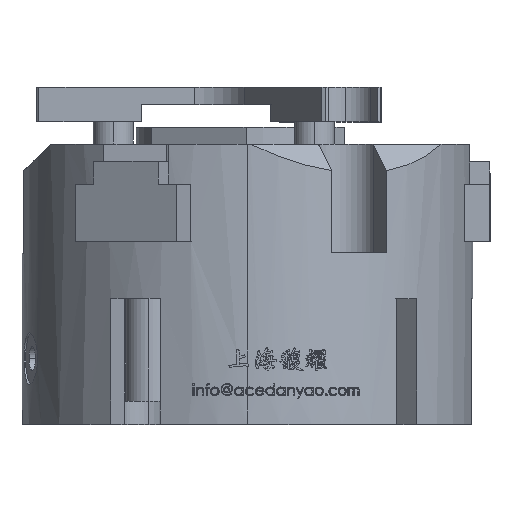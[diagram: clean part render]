
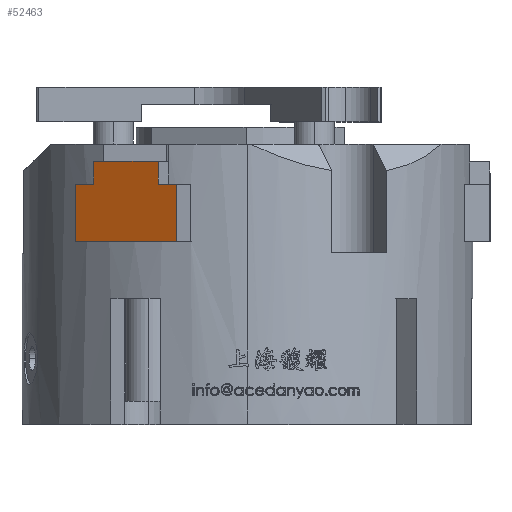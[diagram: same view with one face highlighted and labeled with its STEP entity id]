
A CAD part, top view. The second image highlights one B-rep face of the part: STEP entity #52463.
In plain terms, the highlighted planar face has unit normal (-0.5, 0, 0.866) as drawn and (-1, 0, 0) by its records, which use the part's own axes.
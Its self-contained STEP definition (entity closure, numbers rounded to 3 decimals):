
#636 = DIRECTION ( 'NONE',  ( 0., 0., 1. ) ) ;
#2100 = CARTESIAN_POINT ( 'NONE',  ( 0., 10., -6.5 ) ) ;
#2274 = LINE ( 'NONE', #6413, #61191 ) ;
#2461 = LINE ( 'NONE', #2722, #61377 ) ;
#2722 = CARTESIAN_POINT ( 'NONE',  ( 0., 14., 6.5 ) ) ;
#5378 = VERTEX_POINT ( 'NONE', #6245 ) ;
#6245 = CARTESIAN_POINT ( 'NONE',  ( 0., 0., -10.3 ) ) ;
#6413 = CARTESIAN_POINT ( 'NONE',  ( 0., 14., 10.3 ) ) ;
#6554 = EDGE_CURVE ( 'NONE', #63397, #33705, #73833, .T. ) ;
#8241 = LINE ( 'NONE', #34299, #67137 ) ;
#8414 = CARTESIAN_POINT ( 'NONE',  ( 0., 10., -10.3 ) ) ;
#10519 = DIRECTION ( 'NONE',  ( 1., 0., 0. ) ) ;
#10590 = CARTESIAN_POINT ( 'NONE',  ( 0., 10., 10.3 ) ) ;
#13305 = LINE ( 'NONE', #68984, #57097 ) ;
#13729 = ORIENTED_EDGE ( 'NONE', *, *, #69305, .F. ) ;
#13819 = ORIENTED_EDGE ( 'NONE', *, *, #29661, .T. ) ;
#14181 = DIRECTION ( 'NONE',  ( 0., -1., 0. ) ) ;
#16306 = DIRECTION ( 'NONE',  ( 0., 0., 1. ) ) ;
#18224 = VECTOR ( 'NONE', #22471, 1000. ) ;
#19049 = ORIENTED_EDGE ( 'NONE', *, *, #37576, .F. ) ;
#22119 = EDGE_CURVE ( 'NONE', #37578, #47590, #8241, .T. ) ;
#22471 = DIRECTION ( 'NONE',  ( 0., 0., 1. ) ) ;
#23207 = ORIENTED_EDGE ( 'NONE', *, *, #55913, .T. ) ;
#24368 = EDGE_LOOP ( 'NONE', ( #19049, #24394, #41079, #44705, #23207, #13819, #47168, #13729 ) ) ;
#24394 = ORIENTED_EDGE ( 'NONE', *, *, #65618, .F. ) ;
#27030 = CARTESIAN_POINT ( 'NONE',  ( 0., 0., 10.3 ) ) ;
#28011 = LINE ( 'NONE', #56730, #18224 ) ;
#28332 = VERTEX_POINT ( 'NONE', #8414 ) ;
#29661 = EDGE_CURVE ( 'NONE', #5378, #47590, #13305, .T. ) ;
#30545 = CARTESIAN_POINT ( 'NONE',  ( 0., 14., -6.5 ) ) ;
#31100 = VECTOR ( 'NONE', #54322, 1000. ) ;
#33197 = CARTESIAN_POINT ( 'NONE',  ( 0., 14., 10.3 ) ) ;
#33309 = CARTESIAN_POINT ( 'NONE',  ( 0., 14., -6.5 ) ) ;
#33705 = VERTEX_POINT ( 'NONE', #33309 ) ;
#34299 = CARTESIAN_POINT ( 'NONE',  ( 0., 0., 10.3 ) ) ;
#37576 = EDGE_CURVE ( 'NONE', #49724, #51077, #2461, .T. ) ;
#37578 = VERTEX_POINT ( 'NONE', #48399 ) ;
#41079 = ORIENTED_EDGE ( 'NONE', *, *, #6554, .F. ) ;
#43485 = VECTOR ( 'NONE', #65006, 1000. ) ;
#44702 = PLANE ( 'NONE',  #51092 ) ;
#44705 = ORIENTED_EDGE ( 'NONE', *, *, #59607, .F. ) ;
#45795 = DIRECTION ( 'NONE',  ( 0., -1., 0. ) ) ;
#46272 = CARTESIAN_POINT ( 'NONE',  ( 0., 10., 6.5 ) ) ;
#46334 = LINE ( 'NONE', #49086, #31100 ) ;
#46340 = DIRECTION ( 'NONE',  ( 0., 0., 1. ) ) ;
#46802 = CARTESIAN_POINT ( 'NONE',  ( 0., 14., 6.5 ) ) ;
#47168 = ORIENTED_EDGE ( 'NONE', *, *, #22119, .F. ) ;
#47590 = VERTEX_POINT ( 'NONE', #27030 ) ;
#48399 = CARTESIAN_POINT ( 'NONE',  ( 0., 10., 10.3 ) ) ;
#49086 = CARTESIAN_POINT ( 'NONE',  ( 0., 0., -10.3 ) ) ;
#49724 = VERTEX_POINT ( 'NONE', #46802 ) ;
#50452 = DIRECTION ( 'NONE',  ( 0., 1., 0. ) ) ;
#51077 = VERTEX_POINT ( 'NONE', #46272 ) ;
#51092 = AXIS2_PLACEMENT_3D ( 'NONE', #33197, #10519, #50452 ) ;
#52463 = ADVANCED_FACE ( 'NONE', ( #73066 ), #44702, .F. ) ;
#54322 = DIRECTION ( 'NONE',  ( 0., -1., 0. ) ) ;
#55913 = EDGE_CURVE ( 'NONE', #28332, #5378, #46334, .T. ) ;
#56730 = CARTESIAN_POINT ( 'NONE',  ( 0., 10., 10.3 ) ) ;
#57097 = VECTOR ( 'NONE', #636, 1000. ) ;
#58696 = VECTOR ( 'NONE', #16306, 1000. ) ;
#59607 = EDGE_CURVE ( 'NONE', #28332, #63397, #62287, .T. ) ;
#61191 = VECTOR ( 'NONE', #46340, 1000. ) ;
#61377 = VECTOR ( 'NONE', #14181, 1000. ) ;
#62287 = LINE ( 'NONE', #10590, #58696 ) ;
#63397 = VERTEX_POINT ( 'NONE', #2100 ) ;
#65006 = DIRECTION ( 'NONE',  ( 0., 1., 0. ) ) ;
#65618 = EDGE_CURVE ( 'NONE', #33705, #49724, #2274, .T. ) ;
#67137 = VECTOR ( 'NONE', #45795, 1000. ) ;
#68984 = CARTESIAN_POINT ( 'NONE',  ( 0., 0., 10.3 ) ) ;
#69305 = EDGE_CURVE ( 'NONE', #51077, #37578, #28011, .T. ) ;
#73066 = FACE_OUTER_BOUND ( 'NONE', #24368, .T. ) ;
#73833 = LINE ( 'NONE', #30545, #43485 ) ;
